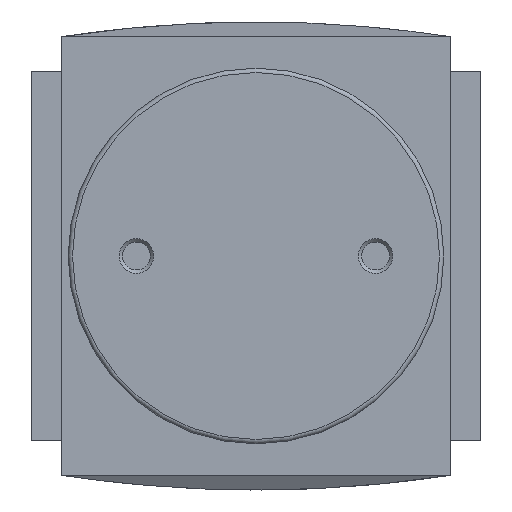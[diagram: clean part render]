
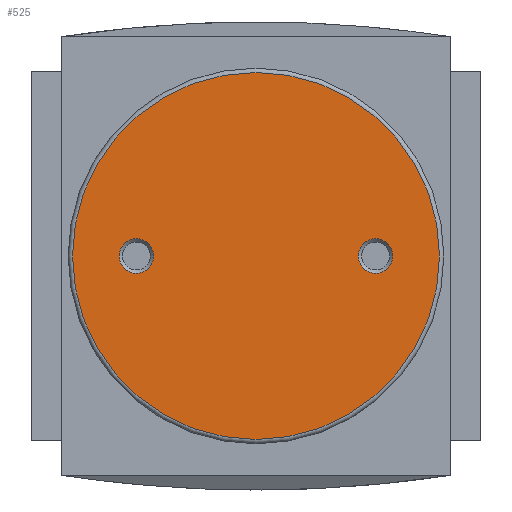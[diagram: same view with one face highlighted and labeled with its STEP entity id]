
A CAD part, front view. The second image highlights one B-rep face of the part: STEP entity #525.
In plain terms, the highlighted planar face has unit normal (0, -1, 0).
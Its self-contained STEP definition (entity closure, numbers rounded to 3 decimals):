
#525 = ADVANCED_FACE( '', ( #1345, #1346, #1347 ), #1348, .F. );
#1345 = FACE_BOUND( '', #2536, .T. );
#1346 = FACE_OUTER_BOUND( '', #2537, .T. );
#1347 = FACE_BOUND( '', #2538, .T. );
#1348 = PLANE( '', #2539 );
#2536 = EDGE_LOOP( '', ( #3972 ) );
#2537 = EDGE_LOOP( '', ( #3973 ) );
#2538 = EDGE_LOOP( '', ( #3974 ) );
#2539 = AXIS2_PLACEMENT_3D( '', #3975, #3976, #3977 );
#3972 = ORIENTED_EDGE( '', *, *, #6902, .F. );
#3973 = ORIENTED_EDGE( '', *, *, #6903, .T. );
#3974 = ORIENTED_EDGE( '', *, *, #6904, .F. );
#3975 = CARTESIAN_POINT( '', ( 21.25, -33., 0. ) );
#3976 = DIRECTION( '', ( 0., 1., 0. ) );
#3977 = DIRECTION( '', ( 0., 0., 1. ) );
#6902 = EDGE_CURVE( '', #8277, #8277, #8278, .F. );
#6903 = EDGE_CURVE( '', #8279, #8279, #8280, .T. );
#6904 = EDGE_CURVE( '', #8281, #8281, #8282, .T. );
#8277 = VERTEX_POINT( '', #10194 );
#8278 = CIRCLE( '', #10195, 2. );
#8279 = VERTEX_POINT( '', #10196 );
#8280 = CIRCLE( '', #10197, 21.25 );
#8281 = VERTEX_POINT( '', #10198 );
#8282 = CIRCLE( '', #10199, 2. );
#10194 = CARTESIAN_POINT( '', ( 13.85, -33., 2. ) );
#10195 = AXIS2_PLACEMENT_3D( '', #12237, #12238, #12239 );
#10196 = CARTESIAN_POINT( '', ( 0., -33., -21.25 ) );
#10197 = AXIS2_PLACEMENT_3D( '', #12240, #12241, #12242 );
#10198 = CARTESIAN_POINT( '', ( -13.85, -33., -2. ) );
#10199 = AXIS2_PLACEMENT_3D( '', #12243, #12244, #12245 );
#12237 = CARTESIAN_POINT( '', ( 13.85, -33., 0. ) );
#12238 = DIRECTION( '', ( 0., 1., 0. ) );
#12239 = DIRECTION( '', ( 0., 0., 1. ) );
#12240 = CARTESIAN_POINT( '', ( 0., -33., 0. ) );
#12241 = DIRECTION( '', ( 0., -1., 0. ) );
#12242 = DIRECTION( '', ( 0., 0., -1. ) );
#12243 = CARTESIAN_POINT( '', ( -13.85, -33., 0. ) );
#12244 = DIRECTION( '', ( 0., -1., 0. ) );
#12245 = DIRECTION( '', ( 0., 0., -1. ) );
